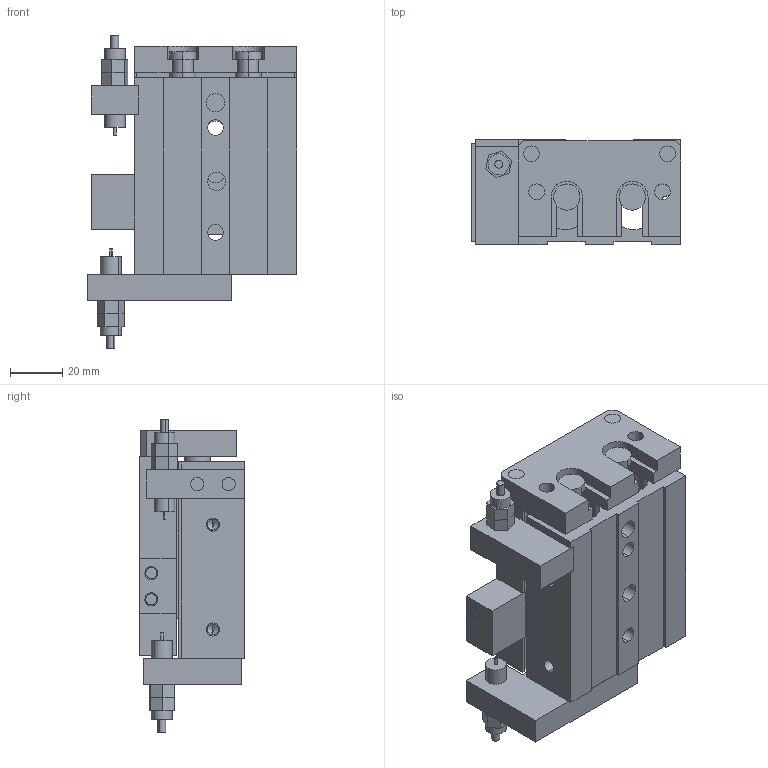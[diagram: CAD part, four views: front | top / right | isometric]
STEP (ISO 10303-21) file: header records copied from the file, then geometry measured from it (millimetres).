
FILE_DESCRIPTION (( 'STEP AP203' ), '1' );
FILE_NAME ('GDX 16-20.STEP', '2013-02-25T11:22:56', ( 'Conseil Régional Haute-Normandie' ), ( 'Conseil Régional Haute-Normandie' ), 'SwSTEP 2.0', 'SolidWorks 2010', '' );
FILE_SCHEMA (( 'CONFIG_CONTROL_DESIGN' ));
Length unit declared in the file: millimetre
Products named in the file (14): GDX 16-20; Pièce6 GDX16-10_Default; Pièce7 GDX16-10_Default; Pièce8 GDX16-10_Default; Pièce1 GDX 16-20_Default; Pièce12 GDX16-10_Default; Pièce3 GDX16-10_Default; Pièce5 GDX16-10_Default; Pièce9 GDX16-10_Default; Pièce11 GDX16-10_Default; Pièce 4 GDX16-10; Pièce10 GDX16-10_Default; GDX25-10 Pièce14_Default; Pièce2 GDX16-10_Default
Assembly tree (27 placements, depth 2):
  GDX 16-20
    Pièce12 GDX16-10_Default  x4
    Pièce10 GDX16-10_Default  x8
    Pièce6 GDX16-10_Default
    Pièce8 GDX16-10_Default
    GDX25-10 Pièce14_Default  x2
    Pièce11 GDX16-10_Default  x2
    Pièce5 GDX16-10_Default  x2
    Pièce 4 GDX16-10
    Pièce9 GDX16-10_Default
    Pièce1 GDX 16-20_Default
    Pièce7 GDX16-10_Default
    Pièce2 GDX16-10_Default  x2
    Pièce3 GDX16-10_Default
Bounding box: 80 x 40 x 119.4 mm (x, y, z)
Volume: 180928.8 mm3; surface area: 78606.7 mm2
Topology: 27 solids, 27 shells, 742 faces, 1866 edges, 1224 vertices
Faces by surface type: plane 397, cylinder 188, bspline 133, cone 24
Entity records: 31114 total; most frequent: CARTESIAN_POINT 14588, ORIENTED_EDGE 3192, DIRECTION 2630, EDGE_CURVE 1596, LINE 1062, VECTOR 1062, VERTEX_POINT 1060, AXIS2_PLACEMENT_3D 784
